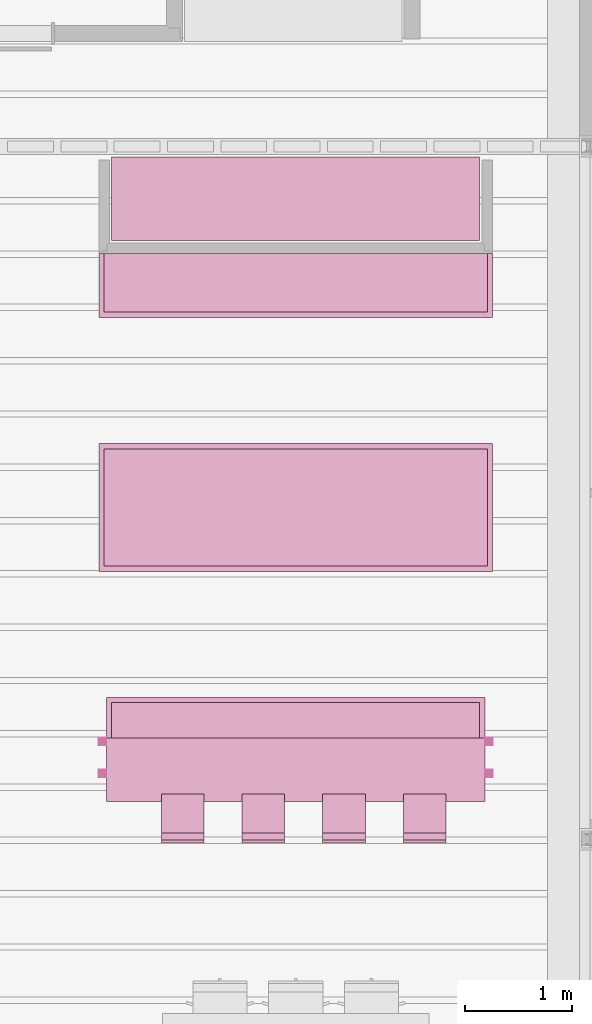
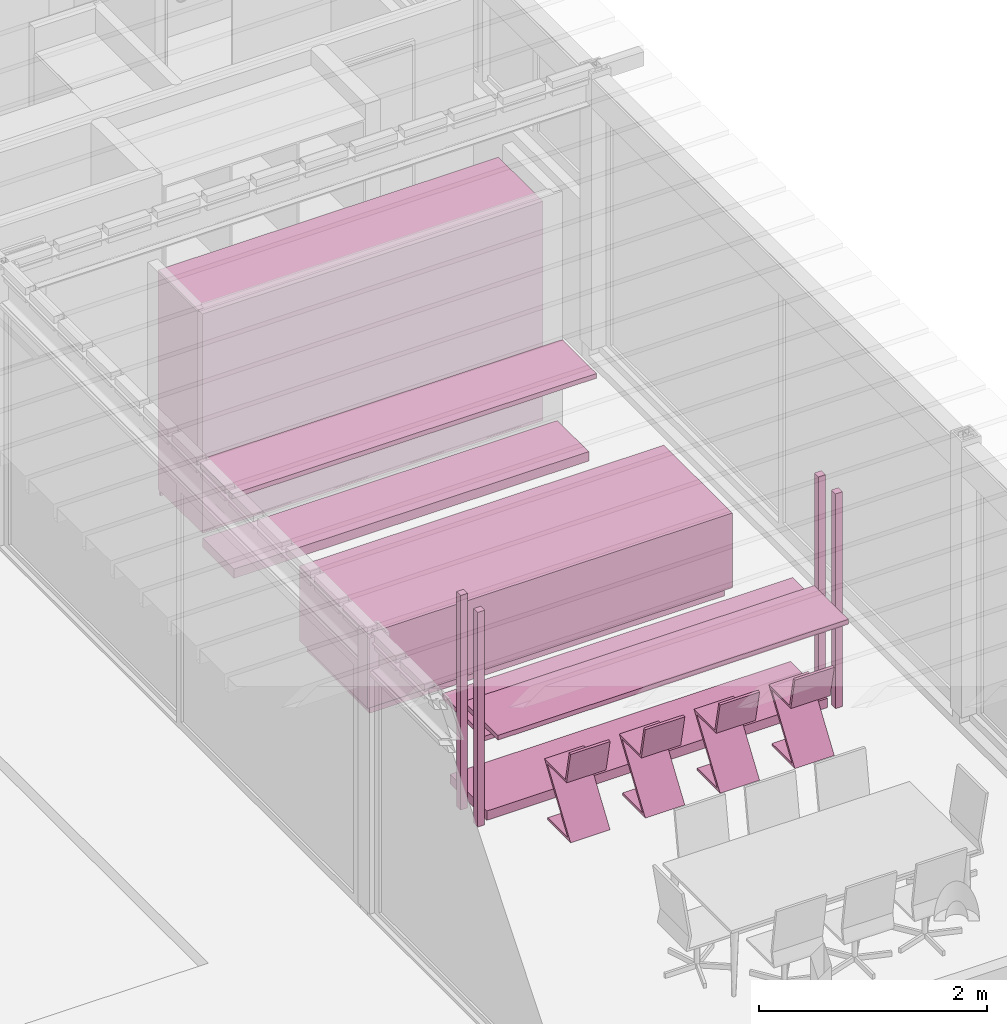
# One storey, part 23 of 28: 13 furniture elements.
"""IFC4X3_ADD2 building model written with IfcOpenShell, lengths in metres."""

from ifc_helpers import new_model, si_unit, direction, frame, frame_2d, origin_with_axes, origin_2d_with_axis, place, context, subcontext, project, spatial, polyline, rectangle, outline, extrude, source, transform, mapped, material, element, save


model = new_model("IFC4X3_ADD2")

# Units and contexts
model_context = context("Model", 3, precision=1e-05, world=origin_with_axes(), true_north=direction((0.0, 1.0)))
body_context = subcontext(model_context, "Body", "Model", "MODEL_VIEW")
ifc_project = project(units=[si_unit("LENGTHUNIT", "METRE"), si_unit("AREAUNIT", "SQUARE_METRE"), si_unit("VOLUMEUNIT", "CUBIC_METRE"), si_unit("PLANEANGLEUNIT", "RADIAN"), si_unit("TIMEUNIT", "SECOND"), si_unit("MASSUNIT", "GRAM")], contexts=[model_context])

# Site, building, storey, space
site_placement = place(None, origin_with_axes())
site = spatial("IfcSite", under=ifc_project, at=site_placement, Name="Site", CompositionType="ELEMENT")
building_placement = place(site_placement, origin_with_axes())
building = spatial("IfcBuilding", under=site, at=building_placement, Name="Default Building")
storey_placement = place(building_placement, frame((0.0, 0.0, -0.08), z_axis=(0.0, 0.0, 1.0), x_axis=(1.0, 0.0, 0.0)))
storey = spatial("IfcBuildingStorey", under=building, at=storey_placement, Name="Gruendung", Elevation=-0.08)
space_1_placement = place(storey_placement, frame((19.100001, 15.9, 0.08), z_axis=(0.0, 0.0, 1.0), x_axis=(0.0, -1.0, 0.0)))
space_1 = spatial("IfcSpace", under=storey, at=space_1_placement, Name="Space", CompositionType="ELEMENT", PredefinedType="SPACE")

# Furniture
ifc_material = material(Name="Default")
shared_shape_1 = source(origin_with_axes(), body_context, "Body", "SweptSolid", [
    extrude(outline(polyline([(-0.4391124, 0.2115784), (-0.4137124, 0.2115784), (-0.4137124, -0.1428716), (0.1844856, 0.2667824), (0.1844856, -0.09835660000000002), (0.5118306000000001, -0.1661796), (0.5066766, -0.1910506), (0.1590856, -0.1190336), (0.1590856, 0.2186034), (-0.4391124, -0.1910506), (-0.4391124, 0.2115784)])), frame((-0.2, 0.02538239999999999, 0.4389144), z_axis=(1.0, 0.0, 0.0), x_axis=(0.0, 0.0, 1.0)), (0.0, 0.0, 1.0), 0.4),
])
for number, where, z_axis, x_axis, name in (
    (1, (22.69099426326, 9.68321989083, 0.08), (0.0, 0.0, 1.0), (-1.0, 0.0, 0.0), "IfcFurniture"),
    (2, (23.44833311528, 9.68321989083, 0.08), (0.0, 0.0, 1.0), (-1.0, 0.0, 0.0), "IfcFurniture"),
    (3, (21.17631655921, 9.68321989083, 0.08), (0.0, 0.0, 1.0), (-1.0, 0.0, 0.0), "IfcFurniture"),
):
    element("IfcFurniture", number, at=place(storey_placement, frame(where, z_axis=z_axis, x_axis=x_axis)), inside=space_1, material=ifc_material, Name=name, ObjectType="Stuhl Rietvald 01 Z", PredefinedType="CHAIR", context=body_context, shape_type="MappedRepresentation", body=[
        mapped(shared_shape_1, transform((0.0, 0.0, 0.0))),
    ])
furniture_1_placement = place(storey_placement, frame((21.93365541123, 9.683219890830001, 0.08), z_axis=(0.0, 0.0, 1.0), x_axis=(-1.0, 0.0, 0.0)))
element("IfcFurniture", 4, at=furniture_1_placement, inside=storey, material=ifc_material, Name="IfcFurniture", ObjectType="Stuhl Rietvald 01 Z", PredefinedType="CHAIR", context=body_context, shape_type="MappedRepresentation", body=[
    mapped(shared_shape_1, transform((0.0, 0.0, 0.0))),
])

# Space
space_2_placement = place(storey_placement, frame((18.92500139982, 15.096574, 0.08), z_axis=(0.0, 0.0, 1.0), x_axis=(1.0, 0.0, 0.0)))
space_2 = spatial("IfcSpace", under=storey, at=space_2_placement, Name="Space", CompositionType="ELEMENT", PredefinedType="SPACE")

# Furniture
shared_shape_2 = source(origin_with_axes(), body_context, "Body", "SweptSolid", [
    extrude(rectangle(XDim=0.78, YDim=0.02, at=frame_2d((0.0, 0.0), x_axis=(0.0, 1.0))), frame((0.01, 0.39, 0.05000000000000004), z_axis=(0.0, 0.0, 1.0), x_axis=(1.0, 0.0, 0.0)), (0.0, 0.0, 1.0), 2.350000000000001),
    extrude(rectangle(XDim=0.78, YDim=0.02000000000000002, at=frame_2d((0.0, 0.0), x_axis=(0.0, 1.0))), frame((3.44, 0.39, 0.05000000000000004), z_axis=(0.0, 0.0, 1.0), x_axis=(1.0, 0.0, 0.0)), (0.0, 0.0, 1.0), 2.350000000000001),
    extrude(rectangle(XDim=3.41, YDim=0.78, at=origin_2d_with_axis()), frame((1.725, 0.39, 2.38), z_axis=(0.0, 0.0, 1.0), x_axis=(1.0, 0.0, 0.0)), (0.0, 0.0, 1.0), 0.02000000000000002),
    extrude(rectangle(XDim=3.41, YDim=0.78, at=origin_2d_with_axis()), frame((1.725, 0.39, 0.05), z_axis=(0.0, 0.0, 1.0), x_axis=(1.0, 0.0, 0.0)), (0.0, 0.0, 1.0), 0.02),
    extrude(rectangle(XDim=0.759, YDim=0.02000000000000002, at=frame_2d((0.0, 0.0), x_axis=(0.0, 1.0))), frame((0.8625, 0.3795, 0.06999999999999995), z_axis=(0.0, 0.0, 1.0), x_axis=(1.0, 0.0, 0.0)), (0.0, 0.0, 1.0), 2.31),
    extrude(rectangle(XDim=0.759, YDim=0.02000000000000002, at=frame_2d((0.0, 0.0), x_axis=(0.0, 1.0))), frame((1.725, 0.3795, 0.06999999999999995), z_axis=(0.0, 0.0, 1.0), x_axis=(1.0, 0.0, 0.0)), (0.0, 0.0, 1.0), 2.31),
    extrude(rectangle(XDim=0.759, YDim=0.02000000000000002, at=frame_2d((0.0, 0.0), x_axis=(0.0, 1.0))), frame((2.5875, 0.3795, 0.06999999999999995), z_axis=(0.0, 0.0, 1.0), x_axis=(1.0, 0.0, 0.0)), (0.0, 0.0, 1.0), 2.31),
    extrude(rectangle(XDim=0.832499, YDim=0.759, at=origin_2d_with_axis()), frame((0.4362505, 0.3795, 0.6275000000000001), z_axis=(0.0, 0.0, 1.0), x_axis=(1.0, 0.0, 0.0)), (0.0, 0.0, 1.0), 0.02000000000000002),
    extrude(rectangle(XDim=0.832499, YDim=0.759, at=origin_2d_with_axis()), frame((0.4362505, 0.3795, 1.215), z_axis=(0.0, 0.0, 1.0), x_axis=(1.0, 0.0, 0.0)), (0.0, 0.0, 1.0), 0.02000000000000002),
    extrude(rectangle(XDim=0.832499, YDim=0.759, at=origin_2d_with_axis()), frame((0.4362505, 0.3795, 1.8025), z_axis=(0.0, 0.0, 1.0), x_axis=(1.0, 0.0, 0.0)), (0.0, 0.0, 1.0), 0.02000000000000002),
    extrude(rectangle(XDim=0.842499, YDim=0.759, at=origin_2d_with_axis()), frame((1.2937505, 0.3795, 0.6275000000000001), z_axis=(0.0, 0.0, 1.0), x_axis=(1.0, 0.0, 0.0)), (0.0, 0.0, 1.0), 0.02000000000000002),
    extrude(rectangle(XDim=0.842499, YDim=0.759, at=origin_2d_with_axis()), frame((1.2937505, 0.3795, 1.215), z_axis=(0.0, 0.0, 1.0), x_axis=(1.0, 0.0, 0.0)), (0.0, 0.0, 1.0), 0.02000000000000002),
    extrude(rectangle(XDim=0.842499, YDim=0.759, at=origin_2d_with_axis()), frame((1.2937505, 0.3795, 1.8025), z_axis=(0.0, 0.0, 1.0), x_axis=(1.0, 0.0, 0.0)), (0.0, 0.0, 1.0), 0.02000000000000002),
    extrude(rectangle(XDim=0.8424990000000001, YDim=0.759, at=origin_2d_with_axis()), frame((2.1562505, 0.3795, 0.6275000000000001), z_axis=(0.0, 0.0, 1.0), x_axis=(1.0, 0.0, 0.0)), (0.0, 0.0, 1.0), 0.02000000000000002),
    extrude(rectangle(XDim=0.8424990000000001, YDim=0.759, at=origin_2d_with_axis()), frame((2.1562505, 0.3795, 1.215), z_axis=(0.0, 0.0, 1.0), x_axis=(1.0, 0.0, 0.0)), (0.0, 0.0, 1.0), 0.02000000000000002),
    extrude(rectangle(XDim=0.8424990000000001, YDim=0.759, at=origin_2d_with_axis()), frame((2.1562505, 0.3795, 1.8025), z_axis=(0.0, 0.0, 1.0), x_axis=(1.0, 0.0, 0.0)), (0.0, 0.0, 1.0), 0.02000000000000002),
    extrude(rectangle(XDim=0.8324989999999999, YDim=0.759, at=origin_2d_with_axis()), frame((3.0137505, 0.3795, 0.6275000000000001), z_axis=(0.0, 0.0, 1.0), x_axis=(1.0, 0.0, 0.0)), (0.0, 0.0, 1.0), 0.02000000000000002),
    extrude(rectangle(XDim=0.8324989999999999, YDim=0.759, at=origin_2d_with_axis()), frame((3.0137505, 0.3795, 1.215), z_axis=(0.0, 0.0, 1.0), x_axis=(1.0, 0.0, 0.0)), (0.0, 0.0, 1.0), 0.02000000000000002),
    extrude(rectangle(XDim=0.8324989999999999, YDim=0.759, at=origin_2d_with_axis()), frame((3.0137505, 0.3795, 1.8025), z_axis=(0.0, 0.0, 1.0), x_axis=(1.0, 0.0, 0.0)), (0.0, 0.0, 1.0), 0.02000000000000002),
    extrude(rectangle(XDim=3.41, YDim=0.02000000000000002, at=origin_2d_with_axis()), frame((1.725, 0.769, 0.06999999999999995), z_axis=(0.0, 0.0, 1.0), x_axis=(1.0, 0.0, 0.0)), (0.0, 0.0, 1.0), 2.31),
    extrude(rectangle(XDim=3.45, YDim=0.02, at=origin_2d_with_axis()), frame((1.725, 0.03, 0.0), z_axis=(0.0, 0.0, 1.0), x_axis=(1.0, 0.0, 0.0)), (0.0, 0.0, 1.0), 0.05),
])
furniture_2_placement = place(storey_placement, frame((23.96000000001, 15.9, 0.08), z_axis=(0.0, 0.0, 1.0), x_axis=(-1.0, 0.0, 0.0)))
element("IfcFurniture", 5, at=furniture_2_placement, inside=space_2, material=ifc_material, Name="Shelf", PredefinedType="NOTDEFINED", context=body_context, shape_type="MappedRepresentation", body=[
    mapped(shared_shape_2, transform((0.0, 0.0, 0.0))),
])
shared_shape_3 = source(origin_with_axes(), body_context, "Body", "SweptSolid", [
    extrude(rectangle(XDim=0.07078600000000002, YDim=0.07078499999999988, at=frame_2d((0.0, 0.0), x_axis=(0.0, 1.0))), frame((-1.7595145, -0.186588, 0.0), z_axis=(0.0, 0.0, 1.0), x_axis=(1.0, 0.0, 0.0)), (0.0, 0.0, 1.0), 2.3),
    extrude(rectangle(XDim=0.07078600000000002, YDim=0.0707850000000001, at=frame_2d((0.0, 0.0), x_axis=(0.0, 1.0))), frame((1.8646075, -0.186588, 0.0), z_axis=(0.0, 0.0, 1.0), x_axis=(1.0, 0.0, 0.0)), (0.0, 0.0, 1.0), 2.3),
    extrude(rectangle(XDim=0.07078599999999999, YDim=0.07078499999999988, at=frame_2d((0.0, 0.0), x_axis=(0.0, 1.0))), frame((-1.7595145, 0.113411, 0.0), z_axis=(0.0, 0.0, 1.0), x_axis=(1.0, 0.0, 0.0)), (0.0, 0.0, 1.0), 2.3),
    extrude(rectangle(XDim=0.07078599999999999, YDim=0.0707850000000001, at=frame_2d((0.0, 0.0), x_axis=(0.0, 1.0))), frame((1.8646075, 0.113411, 0.0), z_axis=(0.0, 0.0, 1.0), x_axis=(1.0, 0.0, 0.0)), (0.0, 0.0, 1.0), 2.3),
])
furniture_3_placement = place(storey_placement, frame((22.18490839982, 10.3040163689, 0.08), z_axis=(0.0, 0.0, 1.0), x_axis=(1.0, 0.0, 0.0)))
element("IfcFurniture", 6, at=furniture_3_placement, inside=storey, material=ifc_material, Name="IfcFurniture", PredefinedType="SHELF", context=body_context, shape_type="MappedRepresentation", body=[
    mapped(shared_shape_3, transform((0.0, 0.0, 0.0))),
])
furniture_4_placement = place(storey_placement, frame((20.46078639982, 9.852821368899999, 1.12586196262), z_axis=(0.0, 0.0, 1.0), x_axis=(1.0, 0.0, 0.0)))
element("IfcFurniture", 7, at=furniture_4_placement, inside=storey, material=ifc_material, Name="IfcFurniture", PredefinedType="SHELF", context=body_context, shape_type="SweptSolid", body=[
    extrude(rectangle(XDim=3.553337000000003, YDim=0.5999990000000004, at=origin_2d_with_axis()), frame((1.7766685, 0.2999995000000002, 0.0), z_axis=(0.0, 0.0, 1.0), x_axis=(1.0, 0.0, 0.0)), (0.0, 0.0, 1.0), 0.05000000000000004),
])
furniture_5_placement = place(storey_placement, frame((20.51078639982, 10.1320353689, 0.08), z_axis=(0.0, 0.0, 1.0), x_axis=(1.0, 0.0, 0.0)))
element("IfcFurniture", 8, at=furniture_5_placement, inside=storey, material=ifc_material, Name="IfcFurniture", PredefinedType="SHELF", context=body_context, shape_type="SweptSolid", body=[
    extrude(rectangle(XDim=3.453337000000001, YDim=0.6499990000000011, at=origin_2d_with_axis()), frame((1.726668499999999, 0.3249995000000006, 0.0), z_axis=(0.0, 0.0, 1.0), x_axis=(1.0, 0.0, 0.0)), (0.0, 0.0, 1.0), 0.1),
])
furniture_6_placement = place(storey_placement, frame((20.46078639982, 10.0820353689, 0.98), z_axis=(0.0, 0.0, 1.0), x_axis=(1.0, 0.0, 0.0)))
element("IfcFurniture", 9, at=furniture_6_placement, inside=storey, material=ifc_material, Name="IfcFurniture", PredefinedType="SHELF", context=body_context, shape_type="SweptSolid", body=[
    extrude(rectangle(XDim=3.553337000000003, YDim=0.749998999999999, at=origin_2d_with_axis()), frame((1.776668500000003, 0.3749994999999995, 0.0), z_axis=(0.0, 0.0, 1.0), x_axis=(1.0, 0.0, 0.0)), (0.0, 0.0, 1.0), 0.05000000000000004),
])
furniture_7_placement = place(storey_placement, frame((20.44000069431, 14.44657374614, 0.08), z_axis=(0.0, 0.0, 1.0), x_axis=(1.0, 0.0, 0.0)))
element("IfcFurniture", 10, at=furniture_7_placement, inside=storey, material=ifc_material, Name="IfcFurniture", PredefinedType="SHELF", context=body_context, shape_type="SweptSolid", body=[
    extrude(rectangle(XDim=3.594908, YDim=0.5499989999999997, at=origin_2d_with_axis()), frame((1.797454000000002, 0.2749994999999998, 0.0), z_axis=(0.0, 0.0, 1.0), x_axis=(1.0, 0.0, 0.0)), (0.0, 0.0, 1.0), 0.1),
])
furniture_8_placement = place(storey_placement, frame((20.39000069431, 14.39657374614, 0.98), z_axis=(0.0, 0.0, 1.0), x_axis=(1.0, 0.0, 0.0)))
element("IfcFurniture", 11, at=furniture_8_placement, inside=storey, material=ifc_material, Name="IfcFurniture", PredefinedType="SHELF", context=body_context, shape_type="SweptSolid", body=[
    extrude(rectangle(XDim=3.694908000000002, YDim=0.5999989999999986, at=origin_2d_with_axis()), frame((1.847454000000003, 0.2999995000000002, 0.0), z_axis=(0.0, 0.0, 1.0), x_axis=(1.0, 0.0, 0.0)), (0.0, 0.0, 1.0), 0.05000000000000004),
])
furniture_9_placement = place(storey_placement, frame((20.44000069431, 12.06407374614, 0.08), z_axis=(0.0, 0.0, 1.0), x_axis=(1.0, 0.0, 0.0)))
element("IfcFurniture", 12, at=furniture_9_placement, inside=storey, material=ifc_material, Name="IfcFurniture", PredefinedType="TECHNICALCABINET", context=body_context, shape_type="SweptSolid", body=[
    extrude(rectangle(XDim=3.594908, YDim=1.099998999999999, at=origin_2d_with_axis()), frame((1.797454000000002, 0.5499994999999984, 0.0), z_axis=(0.0, 0.0, 1.0), x_axis=(1.0, 0.0, 0.0)), (0.0, 0.0, 1.0), 0.1),
])
furniture_10_placement = place(storey_placement, frame((20.39000110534, 12.01407374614, 0.18), z_axis=(0.0, 0.0, 1.0), x_axis=(1.0, 0.0, 0.0)))
element("IfcFurniture", 13, at=furniture_10_placement, inside=storey, material=ifc_material, Name="IfcFurniture", PredefinedType="TECHNICALCABINET", context=body_context, shape_type="SweptSolid", body=[
    extrude(rectangle(XDim=3.694907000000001, YDim=1.199999, at=origin_2d_with_axis()), frame((1.8474535, 0.5999994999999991, 0.0), z_axis=(0.0, 0.0, 1.0), x_axis=(1.0, 0.0, 0.0)), (0.0, 0.0, 1.0), 0.8),
])

save(model, "model.ifc")
